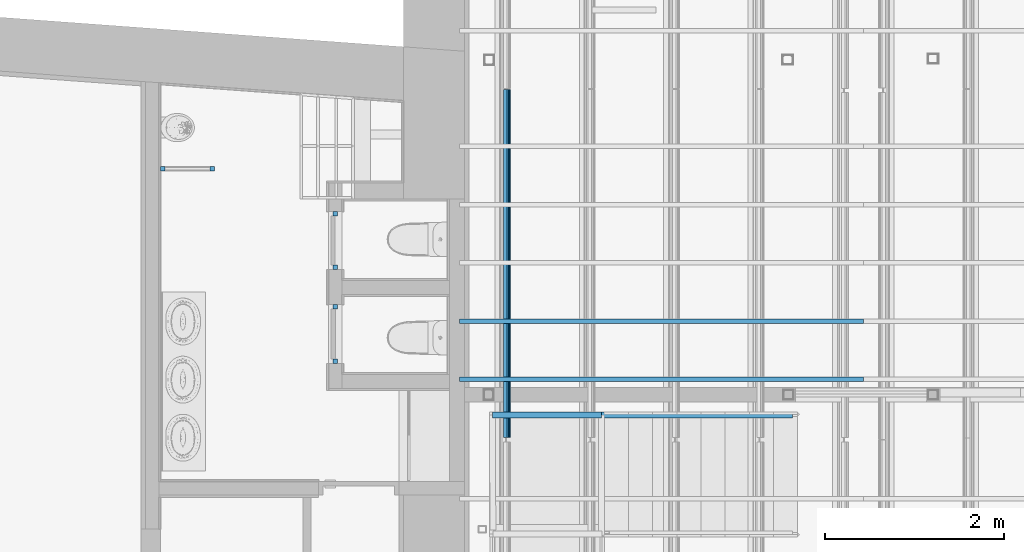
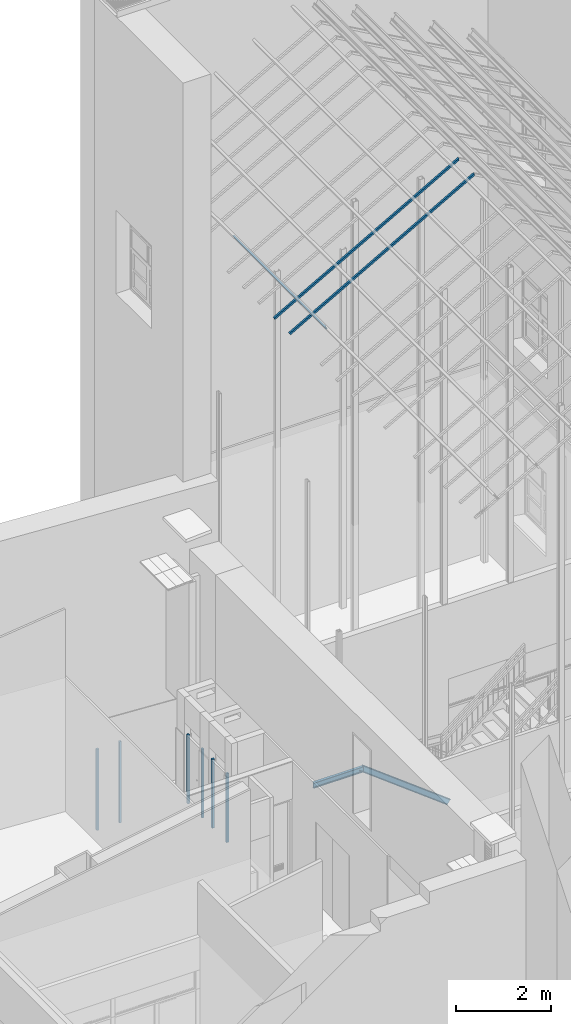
# One storey, part 20 of 75: 6 members, 5 beams, 3 elements without a shape of their own.
"""IFC2X3 building model written with IfcOpenShell, lengths in metres."""

from ifc_helpers import new_model, entity, si_unit, converted_unit, derived_unit, direction, frame, frame_2d, origin, origin_2d_with_axis, place, context, subcontext, project, spatial, polyline, circle_curve, parameter, trimmed, segment, composite_curve, rectangle, outline, extrude, clip, halfspace, source, transform, mapped, material, type_object, type_shapes, element, aggregate, save


model = new_model("IFC2X3")

# Units and contexts
model_context = context("Model", 3, precision=1e-05, world=origin(), true_north=direction((6.12303176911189e-17, 1.0)))
body_context = subcontext(model_context, "Body", "Model", "MODEL_VIEW")
ifc_project = project(units=[si_unit("LENGTHUNIT", "METRE"), si_unit("AREAUNIT", "SQUARE_METRE"), si_unit("VOLUMEUNIT", "CUBIC_METRE"), converted_unit("PLANEANGLEUNIT", "DEGREE", entity("IfcRatioMeasure", 0.0174532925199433), si_unit("PLANEANGLEUNIT", "RADIAN"), dimensions=[0, 0, 0, 0, 0, 0, 0]), si_unit("MASSUNIT", "GRAM", prefix="KILO"), derived_unit("MASSDENSITYUNIT", [(si_unit("MASSUNIT", "GRAM", prefix="KILO"), 1), (si_unit("LENGTHUNIT", "METRE"), -3)]), derived_unit("MOMENTOFINERTIAUNIT", [(si_unit("LENGTHUNIT", "METRE"), 4)]), si_unit("TIMEUNIT", "SECOND"), si_unit("FREQUENCYUNIT", "HERTZ"), si_unit("THERMODYNAMICTEMPERATUREUNIT", "DEGREE_CELSIUS"), derived_unit("THERMALTRANSMITTANCEUNIT", [(si_unit("MASSUNIT", "GRAM", prefix="KILO"), 1), (si_unit("THERMODYNAMICTEMPERATUREUNIT", "KELVIN"), -1), (si_unit("TIMEUNIT", "SECOND"), -3)]), derived_unit("VOLUMETRICFLOWRATEUNIT", [(si_unit("LENGTHUNIT", "METRE"), 3), (si_unit("TIMEUNIT", "SECOND"), -1)]), si_unit("ELECTRICCURRENTUNIT", "AMPERE"), si_unit("ELECTRICVOLTAGEUNIT", "VOLT"), si_unit("POWERUNIT", "WATT"), si_unit("FORCEUNIT", "NEWTON", prefix="KILO"), si_unit("ILLUMINANCEUNIT", "LUX"), si_unit("LUMINOUSFLUXUNIT", "LUMEN"), si_unit("LUMINOUSINTENSITYUNIT", "CANDELA"), derived_unit("USERDEFINED", [(si_unit("MASSUNIT", "GRAM", prefix="KILO"), -1), (si_unit("LENGTHUNIT", "METRE"), -2), (si_unit("TIMEUNIT", "SECOND"), 3), (si_unit("LUMINOUSFLUXUNIT", "LUMEN"), 1)]), derived_unit("LINEARVELOCITYUNIT", [(si_unit("LENGTHUNIT", "METRE"), 1), (si_unit("TIMEUNIT", "SECOND"), -1)]), si_unit("PRESSUREUNIT", "PASCAL"), derived_unit("USERDEFINED", [(si_unit("LENGTHUNIT", "METRE"), -2), (si_unit("MASSUNIT", "GRAM", prefix="KILO"), 1), (si_unit("TIMEUNIT", "SECOND"), -2)]), derived_unit("LINEARFORCEUNIT", [(si_unit("MASSUNIT", "GRAM", prefix="KILO"), 1), (si_unit("LENGTHUNIT", "METRE"), 1), (si_unit("TIMEUNIT", "SECOND"), -2), (si_unit("LENGTHUNIT", "METRE"), -1)]), derived_unit("PLANARFORCEUNIT", [(si_unit("MASSUNIT", "GRAM", prefix="KILO"), 1), (si_unit("LENGTHUNIT", "METRE"), 1), (si_unit("TIMEUNIT", "SECOND"), -2), (si_unit("LENGTHUNIT", "METRE"), -2)])], contexts=[model_context])

# Site, building, storey
site_placement = place(None, origin())
site = spatial("IfcSite", under=ifc_project, at=site_placement, Name="Superficie", CompositionType="ELEMENT")
building_placement = place(site_placement, origin())
building = spatial("IfcBuilding", under=site, at=building_placement, Name="Telegestiones", CompositionType="ELEMENT")
storey_placement = place(building_placement, origin())
storey = spatial("IfcBuildingStorey", under=building, at=storey_placement, Name="Nivel 0_NPT", CompositionType="ELEMENT", Elevation=0.0)

# Beams
ifc_material_1 = material(Name="Metal - Acero - 345 MPa")
beam_type_1 = type_object("IfcBeamType", Name="IPN - Secciones en I con alas cónicas:IPN 140", PredefinedType="NOTDEFINED")
beam_1_placement = place(storey_placement, frame((6.34781262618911, 6.21161177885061, 1.60378760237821)))
element("IfcBeam", 1, at=beam_1_placement, inside=storey, type_object=beam_type_1, material=ifc_material_1, Name="IPN - Secciones en I con alas cónicas:IPN 140", ObjectType="IPN - Secciones en I con alas cónicas:IPN 140", context=body_context, shape_type="SweptSolid", body=[
    extrude(outline(composite_curve([segment(polyline([(-0.0699999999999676, -0.0330000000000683), (-0.0666671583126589, -0.0330000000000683)]), True, "CONTINUOUS"), segment(trimmed(circle_curve(frame_2d((-0.0666671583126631, -0.0296000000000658), x_axis=(0.0, -1.0)), 0.00340000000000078), [parameter(0.0)], [parameter(82.0303896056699)], True, "PARAMETER"), True, "CONTINUOUS"), segment(polyline([(-0.0632999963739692, -0.0300714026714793), (-0.0601763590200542, -0.00775970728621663)]), True, "CONTINUOUS"), segment(trimmed(circle_curve(frame_2d((-0.0545314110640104, -0.00855000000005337), x_axis=(-0.990341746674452, 0.138647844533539)), 0.00569999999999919), [parameter(277.969610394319)], [parameter(0.0)], True, "PARAMETER"), False, "CONTINUOUS"), segment(polyline([(-0.0545314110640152, -0.00285000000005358), (0.0545314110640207, -0.00284999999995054)]), True, "CONTINUOUS"), segment(trimmed(circle_curve(frame_2d((0.0545314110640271, -0.00854999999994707), x_axis=(0.0, 1.0)), 0.00569999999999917), [parameter(277.969610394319)], [parameter(0.0)], True, "PARAMETER"), False, "CONTINUOUS"), segment(polyline([(0.0601763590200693, -0.00775970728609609), (0.0632999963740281, -0.0300714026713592)]), True, "CONTINUOUS"), segment(trimmed(circle_curve(frame_2d((0.0666671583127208, -0.0295999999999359), x_axis=(-0.990341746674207, -0.138647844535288)), 0.00340000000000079), [parameter(0.0)], [parameter(82.0303896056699)], True, "PARAMETER"), True, "CONTINUOUS"), segment(polyline([(0.0666671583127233, -0.0329999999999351), (0.0700000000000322, -0.0329999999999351)]), True, "CONTINUOUS"), segment(polyline([(0.0700000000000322, -0.0329999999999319), (0.0699999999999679, 0.033000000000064)]), True, "CONTINUOUS"), segment(polyline([(0.0699999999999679, 0.0330000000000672), (0.0666671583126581, 0.0330000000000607)]), True, "CONTINUOUS"), segment(trimmed(circle_curve(frame_2d((0.0666671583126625, 0.0296000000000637), x_axis=(0.0, 1.0)), 0.00340000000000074), [parameter(0.0)], [parameter(82.0303896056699)], True, "PARAMETER"), True, "CONTINUOUS"), segment(polyline([(0.0632999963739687, 0.0300714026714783), (0.0601763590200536, 0.00775970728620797)]), True, "CONTINUOUS"), segment(trimmed(circle_curve(frame_2d((0.0545314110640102, 0.0085500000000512), x_axis=(0.990341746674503, -0.138647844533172)), 0.00569999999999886), [parameter(277.969610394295)], [parameter(0.0)], True, "PARAMETER"), False, "CONTINUOUS"), segment(polyline([(0.0545314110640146, 0.0028500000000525), (-0.0545314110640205, 0.00284999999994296)]), True, "CONTINUOUS"), segment(trimmed(circle_curve(frame_2d((-0.0545314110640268, 0.00854999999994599), x_axis=(0.0, -1.0)), 0.00569999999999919), [parameter(277.969610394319)], [parameter(0.0)], True, "PARAMETER"), False, "CONTINUOUS"), segment(polyline([(-0.0601763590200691, 0.00775970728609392), (-0.0632999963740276, 0.0300714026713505)]), True, "CONTINUOUS"), segment(trimmed(circle_curve(frame_2d((-0.0666671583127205, 0.0295999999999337), x_axis=(0.990341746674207, 0.138647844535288)), 0.00340000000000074), [parameter(0.0)], [parameter(82.0303896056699)], True, "PARAMETER"), True, "CONTINUOUS"), segment(polyline([(-0.066667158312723, 0.032999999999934), (-0.070000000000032, 0.0329999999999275)]), True, "CONTINUOUS"), segment(polyline([(-0.070000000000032, 0.0329999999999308), (-0.0699999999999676, -0.0330000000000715)]), True, "CONTINUOUS")], self_intersect=False)), frame((-0.00245712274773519, 0.0, -0.0700000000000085), z_axis=(1.0, 0.0, 0.0), x_axis=(0.0, 0.0, -1.0)), (0.0, 0.0, 1.0), 1.22085),
])
beam_2_placement = place(storey_placement, frame((9.6981100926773, 6.21162508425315, -0.00417428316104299), z_axis=(0.60547771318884, 0.0, 0.795862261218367), x_axis=(-0.795862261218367, 0.0, 0.60547771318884)))
element("IfcBeam", 2, at=beam_2_placement, inside=storey, type_object=beam_type_1, material=ifc_material_1, Name="IPN - Secciones en I con alas cónicas:IPN 140", ObjectType="IPN - Secciones en I con alas cónicas:IPN 140", context=body_context, shape_type="SweptSolid", body=[
    extrude(outline(composite_curve([segment(polyline([(-0.0699999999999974, -0.0329999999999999), (-0.06666715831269, -0.0329999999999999)]), True, "CONTINUOUS"), segment(trimmed(circle_curve(frame_2d((-0.0666671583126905, -0.0295999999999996), x_axis=(0.0, -1.0)), 0.00340000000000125), [parameter(0.0)], [parameter(82.030389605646)], True, "PARAMETER"), True, "CONTINUOUS"), segment(polyline([(-0.0632999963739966, -0.0300714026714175), (-0.0601763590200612, -0.00775970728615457)]), True, "CONTINUOUS"), segment(trimmed(circle_curve(frame_2d((-0.0545314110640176, -0.00854999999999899), x_axis=(-0.990341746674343, 0.138647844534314)), 0.00569999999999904), [parameter(277.969610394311)], [parameter(0.0)], True, "PARAMETER"), False, "CONTINUOUS"), segment(polyline([(-0.0545314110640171, -0.00285000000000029), (0.0545314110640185, -0.00285000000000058)]), True, "CONTINUOUS"), segment(trimmed(circle_curve(frame_2d((0.0545314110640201, -0.00854999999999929), x_axis=(0.0, 1.0)), 0.00569999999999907), [parameter(277.969610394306)], [parameter(0.0)], True, "PARAMETER"), False, "CONTINUOUS"), segment(polyline([(0.0601763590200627, -0.0077597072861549), (0.0632999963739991, -0.0300714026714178)]), True, "CONTINUOUS"), segment(trimmed(circle_curve(frame_2d((0.0666671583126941, -0.0295999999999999), x_axis=(-0.990341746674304, -0.138647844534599)), 0.00340000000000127), [parameter(0.0)], [parameter(82.0303896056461)], True, "PARAMETER"), True, "CONTINUOUS"), segment(polyline([(0.0666671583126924, -0.0330000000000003), (0.0700000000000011, -0.0330000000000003)]), True, "CONTINUOUS"), segment(polyline([(0.0700000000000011, -0.0330000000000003), (0.0700000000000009, 0.0329999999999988)]), True, "CONTINUOUS"), segment(polyline([(0.0700000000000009, 0.0329999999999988), (0.0666671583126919, 0.0329999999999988)]), True, "CONTINUOUS"), segment(trimmed(circle_curve(frame_2d((0.0666671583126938, 0.0295999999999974), x_axis=(0.0, 1.0)), 0.00340000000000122), [parameter(0.0)], [parameter(82.0303896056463)], True, "PARAMETER"), True, "CONTINUOUS"), segment(polyline([(0.0632999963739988, 0.0300714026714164), (0.0601763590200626, 0.00775970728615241)]), True, "CONTINUOUS"), segment(trimmed(circle_curve(frame_2d((0.05453141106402, 0.00854999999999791), x_axis=(0.990341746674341, -0.138647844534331)), 0.00569999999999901), [parameter(277.969610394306)], [parameter(0.0)], True, "PARAMETER"), False, "CONTINUOUS"), segment(polyline([(0.0545314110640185, 0.0028499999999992), (-0.0545314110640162, 0.0028499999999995)]), True, "CONTINUOUS"), segment(trimmed(circle_curve(frame_2d((-0.0545314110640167, 0.0085499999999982), x_axis=(0.0, -1.0)), 0.00569999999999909), [parameter(277.969610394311)], [parameter(0.0)], True, "PARAMETER"), False, "CONTINUOUS"), segment(polyline([(-0.0601763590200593, 0.00775970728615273), (-0.0632999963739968, 0.0300714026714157)]), True, "CONTINUOUS"), segment(trimmed(circle_curve(frame_2d((-0.0666671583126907, 0.0295999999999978), x_axis=(0.9903417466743, 0.138647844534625)), 0.00340000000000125), [parameter(0.0)], [parameter(82.0303896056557)], True, "PARAMETER"), True, "CONTINUOUS"), segment(polyline([(-0.0666671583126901, 0.0329999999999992), (-0.0699999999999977, 0.0329999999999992)]), True, "CONTINUOUS"), segment(polyline([(-0.0699999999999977, 0.0329999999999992), (-0.0699999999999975, -0.0329999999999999)]), True, "CONTINUOUS")], self_intersect=False)), frame((8.5307173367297e-05, 0.0, -0.0700000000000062), z_axis=(1.0, 0.0, 0.0), x_axis=(0.0, 0.0, -1.0)), (0.0, 0.0, 1.0), 2.69606747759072),
])
beam_type_2 = type_object("IfcBeamType", Name="IPN - Secciones en I con alas cónicas:IPN 80", PredefinedType="NOTDEFINED")
beam_3_placement = place(storey_placement, frame((6.48635733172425, 5.94480722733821, 13.4782410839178), z_axis=(0.0, 0.0, 1.0), x_axis=(0.0, 1.0, 0.0)))
element("IfcBeam", 3, at=beam_3_placement, inside=storey, type_object=beam_type_2, material=ifc_material_1, Name="IPN - Secciones en I con alas cónicas:IPN 80", ObjectType="IPN - Secciones en I con alas cónicas:IPN 80", context=body_context, shape_type="SweptSolid", body=[
    extrude(outline(composite_curve([segment(polyline([(-0.0209999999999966, -0.0400000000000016), (0.0210000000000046, -0.0400000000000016)]), True, "CONTINUOUS"), segment(polyline([(0.0210000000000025, -0.0399999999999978), (0.0210000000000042, -0.0375704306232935)]), True, "CONTINUOUS"), segment(trimmed(circle_curve(frame_2d((0.0187000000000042, -0.0375704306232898), x_axis=(1.0, 0.0)), 0.00229999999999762), [parameter(0.0)], [parameter(82.0303896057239)], True, "PARAMETER"), True, "CONTINUOUS"), segment(polyline([(0.0190188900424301, -0.0352926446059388), (0.00530927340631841, -0.0333732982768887)]), True, "CONTINUOUS"), segment(trimmed(circle_curve(frame_2d((0.0058500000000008, -0.0295109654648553), x_axis=(-0.138647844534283, -0.990341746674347)), 0.00389999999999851), [parameter(277.969610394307)], [parameter(0.0)], True, "PARAMETER"), False, "CONTINUOUS"), segment(polyline([(0.00195000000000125, -0.0295109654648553), (0.0019499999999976, 0.02951096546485)]), True, "CONTINUOUS"), segment(trimmed(circle_curve(frame_2d((0.00584999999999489, 0.0295109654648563), x_axis=(-1.0, 0.0)), 0.00389999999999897), [parameter(277.969610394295)], [parameter(0.0)], True, "PARAMETER"), False, "CONTINUOUS"), segment(polyline([(0.00530927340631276, 0.0333732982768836), (0.0190188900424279, 0.0352926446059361)]), True, "CONTINUOUS"), segment(trimmed(circle_curve(frame_2d((0.0186999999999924, 0.0375704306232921), x_axis=(0.13864784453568, -0.990341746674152)), 0.00230000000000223), [parameter(0.0)], [parameter(82.0303896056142)], True, "PARAMETER"), True, "CONTINUOUS"), segment(polyline([(0.0209999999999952, 0.0375704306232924), (0.0209999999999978, 0.0399999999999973)]), True, "CONTINUOUS"), segment(polyline([(0.0209999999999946, 0.040000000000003), (-0.0210000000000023, 0.0399999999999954)]), True, "CONTINUOUS"), segment(polyline([(-0.0210000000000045, 0.0399999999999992), (-0.0210000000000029, 0.0375704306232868)]), True, "CONTINUOUS"), segment(trimmed(circle_curve(frame_2d((-0.0187000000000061, 0.0375704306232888), x_axis=(-1.0, 0.0)), 0.00229999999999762), [parameter(0.0)], [parameter(82.0303896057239)], True, "PARAMETER"), True, "CONTINUOUS"), segment(polyline([(-0.019018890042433, 0.0352926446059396), (-0.00530927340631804, 0.0333732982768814)]), True, "CONTINUOUS"), segment(trimmed(circle_curve(frame_2d((-0.00585000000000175, 0.0295109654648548), x_axis=(0.138647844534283, 0.990341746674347)), 0.00389999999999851), [parameter(277.969610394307)], [parameter(0.0)], True, "PARAMETER"), False, "CONTINUOUS"), segment(polyline([(-0.00195000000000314, 0.0295109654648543), (-0.00194999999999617, -0.0295109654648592)]), True, "CONTINUOUS"), segment(trimmed(circle_curve(frame_2d((-0.00584999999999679, -0.0295109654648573), x_axis=(1.0, 0.0)), 0.00389999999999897), [parameter(277.969610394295)], [parameter(0.0)], True, "PARAMETER"), False, "CONTINUOUS"), segment(polyline([(-0.00530927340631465, -0.0333732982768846), (-0.0190188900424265, -0.0352926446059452)]), True, "CONTINUOUS"), segment(trimmed(circle_curve(frame_2d((-0.0186999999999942, -0.0375704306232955), x_axis=(-0.138647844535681, 0.990341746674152)), 0.00230000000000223), [parameter(0.0)], [parameter(82.0303896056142)], True, "PARAMETER"), True, "CONTINUOUS"), segment(polyline([(-0.020999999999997, -0.0375704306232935), (-0.0209999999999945, -0.0400000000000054)]), True, "CONTINUOUS")], self_intersect=False)), frame((0.0130000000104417, -0.0245925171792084, -0.0435339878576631), z_axis=(1.0, 0.0, 0.0), x_axis=(0.0, -0.870679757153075, 0.491850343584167)), (0.0, 0.0, 1.0), 3.889),
])

# Curtain wall, member
curtain_wall_type = type_object("IfcCurtainWallType", PredefinedType="NOTDEFINED")
curtain_wall_1_placement = place(storey_placement, origin())
curtain_wall_1 = element("IfcCurtainWall", 4, at=curtain_wall_1_placement, inside=storey, type_object=curtain_wall_type)
ifc_material_2 = material(Name="Aluminio")
member_type_1 = type_object("IfcMemberType", Name="Montante rectangular:5x5", PredefinedType="MULLION", material=ifc_material_2)
shared_shape_1 = source(origin(), body_context, "Body", "SweptSolid", [
    extrude(rectangle(XDim=0.05, YDim=0.05, at=origin_2d_with_axis()), frame((-0.025, 0.0, -1.78), z_axis=(0.0, 0.0, 1.0), x_axis=(0.0, -1.0, 0.0)), (0.0, 0.0, 1.0), 1.78),
])
type_shapes(member_type_1, [shared_shape_1])
member_1_placement = place(curtain_wall_1_placement, frame((4.58995224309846, 6.78360722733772, 2.1), z_axis=(0.0, 0.0, 1.0), x_axis=(0.0, -1.0, 0.0)))
member_1 = element("IfcMember", 5, at=member_1_placement, type_object=member_type_1, Name="Montante rectangular:5x5", ObjectType="Montante rectangular:5x5", context=body_context, shape_type="MappedRepresentation", body=[
    mapped(shared_shape_1, transform((0.0, 0.0, 0.0), scale=1.0)),
])

curtain_wall_2_placement = place(storey_placement, origin())
curtain_wall_2 = element("IfcCurtainWall", 6, at=curtain_wall_2_placement, inside=storey, type_object=curtain_wall_type)
member_2_placement = place(curtain_wall_2_placement, frame((4.58981262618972, 7.83360722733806, 2.1), z_axis=(0.0, 0.0, 1.0), x_axis=(0.0, -1.0, 0.0)))
member_2 = element("IfcMember", 7, at=member_2_placement, type_object=member_type_1, Name="Montante rectangular:5x5", ObjectType="Montante rectangular:5x5", context=body_context, shape_type="MappedRepresentation", body=[
    mapped(shared_shape_1, transform((0.0, 0.0, 0.0), scale=1.0)),
])

# Member
member_type_2 = type_object("IfcMemberType", Name="Montante rectangular:5x5", PredefinedType="MULLION", material=ifc_material_2)
shared_shape_2 = source(origin(), body_context, "Body", "SweptSolid", [
    extrude(rectangle(XDim=0.05, YDim=0.05, at=origin_2d_with_axis()), frame((-0.025, 0.0, -1.78), z_axis=(0.0, 0.0, 1.0), x_axis=(0.0, -1.0, 0.0)), (0.0, 0.0, 1.0), 1.78),
])
type_shapes(member_type_2, [shared_shape_2])
member_3_placement = place(curtain_wall_1_placement, frame((4.58995224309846, 7.44324357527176, 0.32), z_axis=(0.0, 0.0, -1.0), x_axis=(0.0, 1.0, 0.0)))
member_3 = element("IfcMember", 8, at=member_3_placement, type_object=member_type_2, Name="Montante rectangular:5x5", ObjectType="Montante rectangular:5x5", context=body_context, shape_type="MappedRepresentation", body=[
    mapped(shared_shape_2, transform((0.0, 0.0, 0.0), scale=1.0)),
])

aggregate(curtain_wall_1, [member_1, member_3])

member_4_placement = place(curtain_wall_2_placement, frame((4.58981262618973, 8.48360722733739, 0.32), z_axis=(0.0, 0.0, -1.0), x_axis=(0.0, 1.0, 0.0)))
member_4 = element("IfcMember", 9, at=member_4_placement, type_object=member_type_2, Name="Montante rectangular:5x5", ObjectType="Montante rectangular:5x5", context=body_context, shape_type="MappedRepresentation", body=[
    mapped(shared_shape_2, transform((0.0, 0.0, 0.0), scale=1.0)),
])

aggregate(curtain_wall_2, [member_2, member_4])

# Beams
ifc_material_3 = material(Name="Madera - Madera de construcción")
beam_type_3 = type_object("IfcBeamType", Name="Madera:50x50mm", PredefinedType="NOTDEFINED")
beam_4_placement = place(storey_placement, frame((6.01059937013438, 7.25894056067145, 13.2094835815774), z_axis=(-0.491850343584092, 0.0, 0.870679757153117), x_axis=(0.870679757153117, 0.0, 0.491850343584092)))
element("IfcBeam", 10, at=beam_4_placement, inside=storey, type_object=beam_type_3, material=ifc_material_3, Name="Madera:50x50mm", ObjectType="Madera:50x50mm", context=body_context, shape_type="SweptSolid", body=[
    clip(extrude(rectangle(XDim=0.0500000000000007, YDim=0.0500000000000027, at=frame_2d((-9.43689570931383e-16, -5.41233724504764e-16), x_axis=(1.0, 0.0))), frame((-0.0851437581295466, 0.0, -0.115000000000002), z_axis=(1.0, 0.0, 0.0), x_axis=(0.0, 0.0, -1.0)), (0.0, 0.0, 1.0), 5.18302027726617), halfspace(frame((5.06963132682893, 0.0, -0.139999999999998), z_axis=(0.870679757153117, 0.0, -0.491850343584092), x_axis=(0.0, -1.0, 0.0)), False)),
])
beam_5_placement = place(storey_placement, frame((6.01059937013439, 6.60777389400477, 13.2094835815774), z_axis=(-0.491850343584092, 0.0, 0.870679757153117), x_axis=(0.870679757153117, 0.0, 0.491850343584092)))
element("IfcBeam", 11, at=beam_5_placement, inside=storey, type_object=beam_type_3, material=ifc_material_3, Name="Madera:50x50mm", ObjectType="Madera:50x50mm", context=body_context, shape_type="SweptSolid", body=[
    clip(extrude(rectangle(XDim=0.0500000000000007, YDim=0.0500000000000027, at=frame_2d((9.41954847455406e-16, -5.41233724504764e-16), x_axis=(1.0, 0.0))), frame((-0.0851437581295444, 0.0, -0.115000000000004), z_axis=(1.0, 0.0, 0.0), x_axis=(0.0, 0.0, -1.0)), (0.0, 0.0, 1.0), 5.18302027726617), halfspace(frame((5.06963132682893, 0.0, -0.140000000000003), z_axis=(0.870679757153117, 0.0, -0.491850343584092), x_axis=(0.0, -1.0, 0.0)), False)),
])

# Curtain wall, members
curtain_wall_3_placement = place(storey_placement, origin())
curtain_wall_3 = element("IfcCurtainWall", 12, at=curtain_wall_3_placement, inside=storey, type_object=curtain_wall_type)
member_type_3 = type_object("IfcMemberType", Name="Montante rectangular:5x5", PredefinedType="MULLION", material=ifc_material_2)
shared_shape_3 = source(origin(), body_context, "Body", "SweptSolid", [
    extrude(rectangle(XDim=0.05, YDim=0.05, at=origin_2d_with_axis()), frame((-0.025, 0.0, -2.1), z_axis=(0.0, 0.0, 1.0), x_axis=(0.0, -1.0, 0.0)), (0.0, 0.0, 1.0), 2.1),
])
type_shapes(member_type_3, [shared_shape_3])
member_5_placement = place(curtain_wall_3_placement, frame((3.23740672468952, 8.96204870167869, 0.0), z_axis=(0.0, 0.0, -1.0), x_axis=(1.0, 0.0, 0.0)))
member_5 = element("IfcMember", 13, at=member_5_placement, type_object=member_type_3, Name="Montante rectangular:5x5", ObjectType="Montante rectangular:5x5", context=body_context, shape_type="MappedRepresentation", body=[
    mapped(shared_shape_3, transform((0.0, 0.0, 0.0), scale=1.0)),
])
member_type_4 = type_object("IfcMemberType", Name="Montante rectangular:5x5", PredefinedType="MULLION", material=ifc_material_2)
shared_shape_4 = source(origin(), body_context, "Body", "SweptSolid", [
    extrude(rectangle(XDim=0.05, YDim=0.05, at=origin_2d_with_axis()), frame((-0.025, 0.0, -2.1), z_axis=(0.0, 0.0, 1.0), x_axis=(0.0, -1.0, 0.0)), (0.0, 0.0, 1.0), 2.1),
])
type_shapes(member_type_4, [shared_shape_4])
member_6_placement = place(curtain_wall_3_placement, frame((2.63740672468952, 8.96204870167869, 2.1), z_axis=(0.0, 0.0, 1.0), x_axis=(-1.0, 0.0, 0.0)))
member_6 = element("IfcMember", 14, at=member_6_placement, type_object=member_type_4, Name="Montante rectangular:5x5", ObjectType="Montante rectangular:5x5", context=body_context, shape_type="MappedRepresentation", body=[
    mapped(shared_shape_4, transform((0.0, 0.0, 0.0), scale=1.0)),
])
aggregate(curtain_wall_3, [member_5, member_6])

save(model, "model.ifc")
